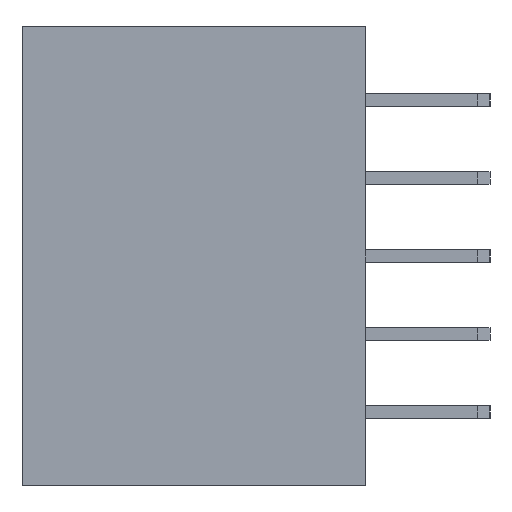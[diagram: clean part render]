
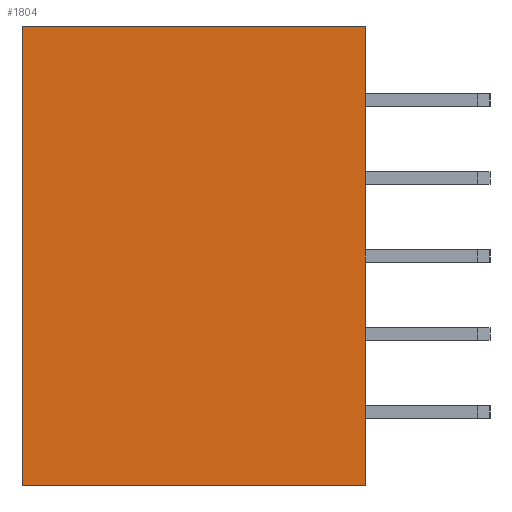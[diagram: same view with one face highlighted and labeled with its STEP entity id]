
A CAD part, left-side view. The second image highlights one B-rep face of the part: STEP entity #1804.
In plain terms, the highlighted planar face has unit normal (-1, 0, 0).
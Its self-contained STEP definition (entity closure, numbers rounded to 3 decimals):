
#127 = FACE_OUTER_BOUND ( 'NONE', #974, .T. ) ;
#134 = AXIS2_PLACEMENT_3D ( 'NONE', #676, #677, #678 ) ;
#174 = CARTESIAN_POINT ( 'NONE',  ( -15.35, 0., 7.35 ) ) ;
#178 = CARTESIAN_POINT ( 'NONE',  ( -15.35, 0., -7.35 ) ) ;
#199 = CARTESIAN_POINT ( 'NONE',  ( -15.35, 11., 7.35 ) ) ;
#200 = CARTESIAN_POINT ( 'NONE',  ( -15.35, 11., -7.35 ) ) ;
#210 = PLANE ( 'NONE',  #134 ) ;
#316 = LINE ( 'NONE', #317, #1438 ) ;
#317 = CARTESIAN_POINT ( 'NONE',  ( -15.35, 11., 7.35 ) ) ;
#318 = DIRECTION ( 'NONE',  ( 0., 0., 1. ) ) ;
#340 = LINE ( 'NONE', #341, #1577 ) ;
#341 = CARTESIAN_POINT ( 'NONE',  ( -15.35, 0., 7.35 ) ) ;
#342 = DIRECTION ( 'NONE',  ( 0., 0., 1. ) ) ;
#358 = LINE ( 'NONE', #359, #1567 ) ;
#359 = CARTESIAN_POINT ( 'NONE',  ( -15.35, 11., 7.35 ) ) ;
#360 = DIRECTION ( 'NONE',  ( 0., -1., 0. ) ) ;
#463 = LINE ( 'NONE', #464, #1381 ) ;
#464 = CARTESIAN_POINT ( 'NONE',  ( -15.35, 11., -7.35 ) ) ;
#465 = DIRECTION ( 'NONE',  ( 0., -1., 0. ) ) ;
#676 = CARTESIAN_POINT ( 'NONE',  ( -15.35, 11., 7.35 ) ) ;
#677 = DIRECTION ( 'NONE',  ( 1., 0., 0. ) ) ;
#678 = DIRECTION ( 'NONE',  ( 0., 0., -1. ) ) ;
#974 = EDGE_LOOP ( 'NONE', ( #1279, #1334, #1333, #1335 ) ) ;
#1104 = VERTEX_POINT ( 'NONE', #174 ) ;
#1108 = VERTEX_POINT ( 'NONE', #178 ) ;
#1129 = VERTEX_POINT ( 'NONE', #199 ) ;
#1130 = VERTEX_POINT ( 'NONE', #200 ) ;
#1279 = ORIENTED_EDGE ( 'NONE', *, *, #1692, .T. ) ;
#1333 = ORIENTED_EDGE ( 'NONE', *, *, #1684, .F. ) ;
#1334 = ORIENTED_EDGE ( 'NONE', *, *, #1698, .F. ) ;
#1335 = ORIENTED_EDGE ( 'NONE', *, *, #1733, .T. ) ;
#1381 = VECTOR ( 'NONE', #465, 1000. ) ;
#1438 = VECTOR ( 'NONE', #318, 1000. ) ;
#1567 = VECTOR ( 'NONE', #360, 1000. ) ;
#1577 = VECTOR ( 'NONE', #342, 1000. ) ;
#1684 = EDGE_CURVE ( 'NONE', #1130, #1129, #316, .T. ) ;
#1692 = EDGE_CURVE ( 'NONE', #1108, #1104, #340, .T. ) ;
#1698 = EDGE_CURVE ( 'NONE', #1129, #1104, #358, .T. ) ;
#1733 = EDGE_CURVE ( 'NONE', #1130, #1108, #463, .T. ) ;
#1804 = ADVANCED_FACE ( 'NONE', ( #127 ), #210, .F. ) ;
